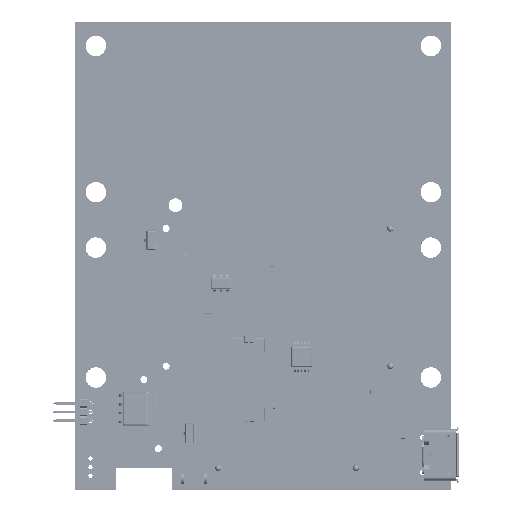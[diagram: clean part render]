
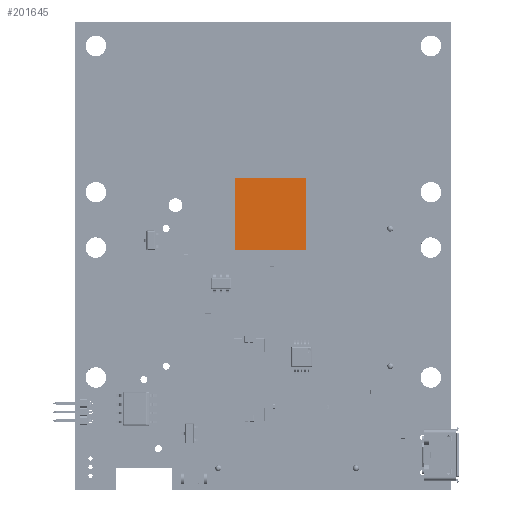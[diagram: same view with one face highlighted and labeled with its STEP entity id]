
A CAD part, top view. The second image highlights one B-rep face of the part: STEP entity #201645.
In plain terms, the highlighted planar face has unit normal (0, 0, 1) as drawn and (0, 1, 0) by its records, which use the part's own axes.
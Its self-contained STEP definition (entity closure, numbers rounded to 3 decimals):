
#201555 = VERTEX_POINT('',#201556);
#201556 = CARTESIAN_POINT('',(-5.2,0.15,-5.2));
#201562 = EDGE_CURVE('',#201555,#201563,#201565,.T.);
#201563 = VERTEX_POINT('',#201564);
#201564 = CARTESIAN_POINT('',(-5.2,0.15,5.2));
#201565 = LINE('',#201566,#201567);
#201566 = CARTESIAN_POINT('',(-5.2,0.15,-5.2));
#201567 = VECTOR('',#201568,1.);
#201568 = DIRECTION('',(0.,0.,1.));
#201586 = VERTEX_POINT('',#201587);
#201587 = CARTESIAN_POINT('',(5.2,0.15,-5.2));
#201593 = EDGE_CURVE('',#201586,#201555,#201594,.T.);
#201594 = LINE('',#201595,#201596);
#201595 = CARTESIAN_POINT('',(5.2,0.15,-5.2));
#201596 = VECTOR('',#201597,1.);
#201597 = DIRECTION('',(-1.,0.,0.));
#201610 = VERTEX_POINT('',#201611);
#201611 = CARTESIAN_POINT('',(5.2,0.15,5.2));
#201617 = EDGE_CURVE('',#201610,#201586,#201618,.T.);
#201618 = LINE('',#201619,#201620);
#201619 = CARTESIAN_POINT('',(5.2,0.15,5.2));
#201620 = VECTOR('',#201621,1.);
#201621 = DIRECTION('',(0.,0.,-1.));
#201634 = EDGE_CURVE('',#201563,#201610,#201635,.T.);
#201635 = LINE('',#201636,#201637);
#201636 = CARTESIAN_POINT('',(-5.2,0.15,5.2));
#201637 = VECTOR('',#201638,1.);
#201638 = DIRECTION('',(1.,0.,0.));
#201645 = ADVANCED_FACE('',(#201646),#201652,.T.);
#201646 = FACE_BOUND('',#201647,.F.);
#201647 = EDGE_LOOP('',(#201648,#201649,#201650,#201651));
#201648 = ORIENTED_EDGE('',*,*,#201562,.F.);
#201649 = ORIENTED_EDGE('',*,*,#201593,.F.);
#201650 = ORIENTED_EDGE('',*,*,#201617,.F.);
#201651 = ORIENTED_EDGE('',*,*,#201634,.F.);
#201652 = PLANE('',#201653);
#201653 = AXIS2_PLACEMENT_3D('',#201654,#201655,#201656);
#201654 = CARTESIAN_POINT('',(0.,0.15,0.));
#201655 = DIRECTION('',(0.,1.,0.));
#201656 = DIRECTION('',(1.,0.,0.));
